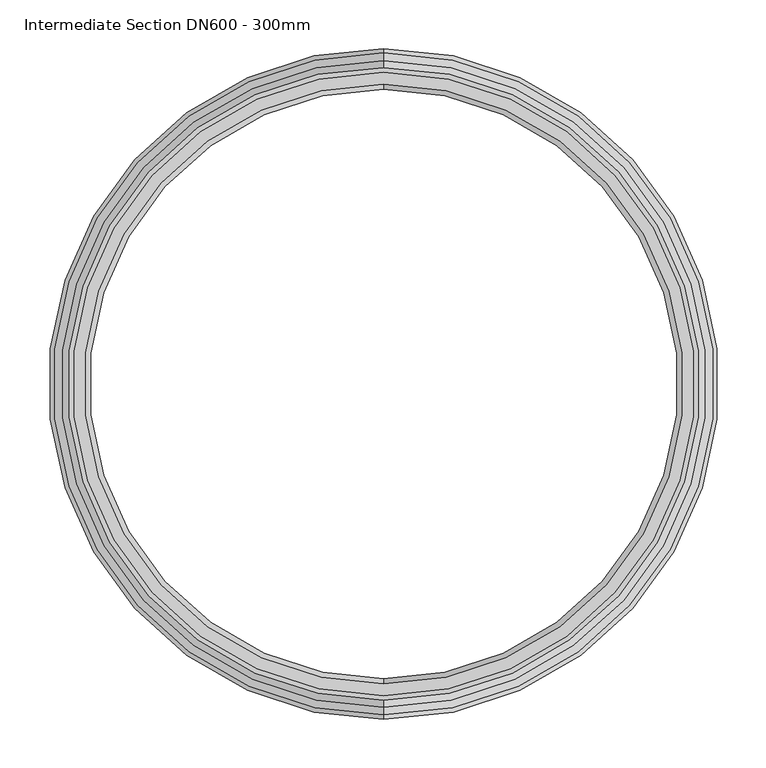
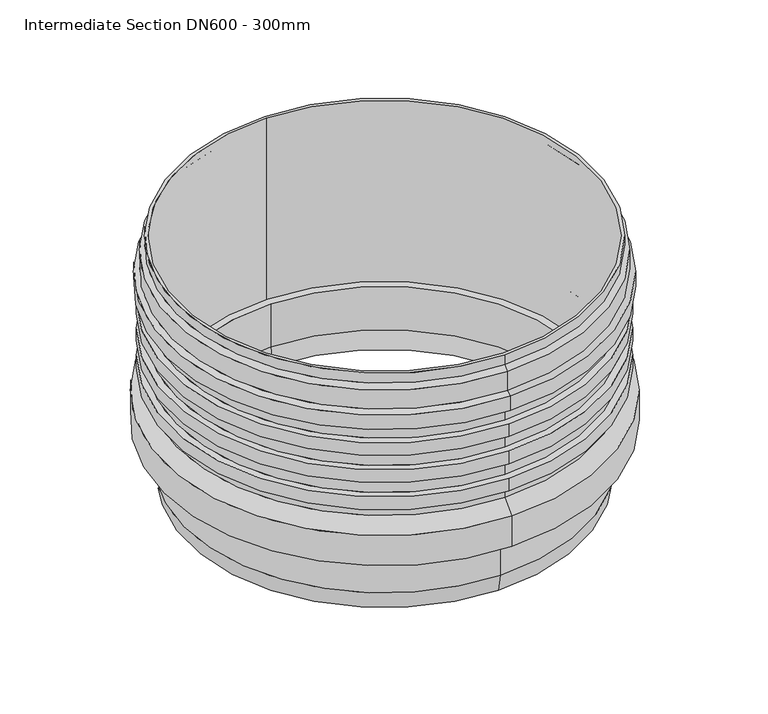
"""IFC4 building model written with IfcOpenShell, lengths in millimetres: proxy geometry, GRAF Intermediate Section DN600 - 300mm : Intermediate Section DN600 - 300mm."""

from ifc_helpers import new_model, si_unit, frame, origin, place, context, project, spatial, polyline, circle_curve, source, transform, mapped, element, save
from ifc_brep_helpers import plane_surface, cylinder_surface, revolved_surface, advanced_brep


def intermediate_section_dn600_300mm_32245d74(model_context):
    return source(origin(), model_context, "Body", "AdvancedBrep", [
        advanced_brep(
        [(-285.0, 325.5, 289.0), (-285.0, -325.5, 289.0), (-285.0, -325.5, 305.0), (-285.0, 325.5, 305.0), (-285.0, 332.5, 282.0), (-285.0, -332.5, 282.0), (-285.0, 332.5, 250.7785591), (-285.0, -332.5, 250.7785591), (-285.0, 340.5, 245.9426053), (-285.0, -340.5, 245.9426053), (-285.0, 340.5, 222.0), (-285.0, -340.5, 222.0), (-285.0, 325.5, 219.3550953), (-285.0, -325.5, 219.3550953), (-285.0, 325.5, 197.4490954), (-285.0, -325.5, 197.4490954), (-285.0, 336.5, 176.5509046), (-285.0, -336.5, 176.5509046), (-285.0, -336.5, 197.4490954), (-285.0, 336.5, 197.4490954), (-285.0, 325.5, 152.4490954), (-285.0, -325.5, 152.4490954), (-285.0, -325.5, 176.5509046), (-285.0, 325.5, 176.5509046), (-285.0, 336.5, 131.5509046), (-285.0, -336.5, 131.5509046), (-285.0, -336.5, 152.4490954), (-285.0, 336.5, 152.4490954), (-285.0, 325.5, 107.4490954), (-285.0, -325.5, 107.4490954), (-285.0, -325.5, 131.5509046), (-285.0, 325.5, 131.5509046), (-285.0, 336.5, 86.5509046), (-285.0, -336.5, 86.5509046), (-285.0, -336.5, 107.4490954), (-285.0, 336.5, 107.4490954), (-285.0, 325.5, 69.5), (-285.0, -325.5, 69.5), (-285.0, -325.5, 86.5509046), (-285.0, 325.5, 86.5509046), (-285.0, 345.0, 50.0), (-285.0, -345.0, 50.0), (-285.0, 345.0, 0.0), (-285.0, -345.0, 0.0), (-285.0, 313.5, -67.0993611), (-285.0, -313.5, -67.0993611), (-285.0, -313.5, 0.0), (-285.0, 313.5, 0.0), (-285.0, 308.2793352, -95.0), (-285.0, -308.2793352, -95.0), (-285.0, 308.5, -66.6355948), (-285.0, -308.5, -66.6355948), (-285.0, -303.1925569, -95.0), (-285.0, 303.1925569, -95.0), (-285.0, 308.5, 5.0), (-285.0, -308.5, 5.0), (-285.0, 320.5, 305.0), (-285.0, -320.5, 305.0), (-285.0, -320.5, 5.0), (-285.0, 320.5, 5.0)],
        [
            (0, 1, circle_curve(frame((-285.0, 0.0, 289.0), z_axis=(0.0, 0.0, 1.0), x_axis=(0.0, -1.0, 0.0)), 325.5)),
            (1, 2),
            (2, 3, circle_curve(frame((-285.0, 0.0, 305.0), z_axis=(0.0, 0.0, -1.0), x_axis=(0.0, -1.0, 0.0)), 325.5)),
            (3, 0),
            (4, 5, circle_curve(frame((-285.0, 0.0, 282.0), z_axis=(0.0, 0.0, 1.0), x_axis=(0.0, -1.0, 0.0)), 332.5)),
            (5, 1),
            (0, 4),
            (6, 7, circle_curve(frame((-285.0, 0.0, 250.7785591), z_axis=(0.0, 0.0, 1.0), x_axis=(0.0, -1.0, 0.0)), 332.5)),
            (7, 5),
            (4, 6),
            (8, 9, circle_curve(frame((-285.0, 0.0, 245.9426053), z_axis=(0.0, 0.0, 1.0), x_axis=(0.0, -1.0, 0.0)), 340.5)),
            (9, 7),
            (6, 8),
            (10, 11, circle_curve(frame((-285.0, 0.0, 222.0), z_axis=(0.0, 0.0, 1.0), x_axis=(0.0, -1.0, 0.0)), 340.5)),
            (11, 9),
            (8, 10),
            (12, 13, circle_curve(frame((-285.0, 0.0, 219.3550953), z_axis=(0.0, 0.0, 1.0), x_axis=(0.0, -1.0, 0.0)), 325.5)),
            (13, 11),
            (10, 12),
            (14, 15, circle_curve(frame((-285.0, 0.0, 197.4490954), z_axis=(0.0, 0.0, 1.0), x_axis=(0.0, -1.0, 0.0)), 325.5)),
            (15, 13),
            (12, 14),
            (16, 17, circle_curve(frame((-285.0, 0.0, 176.5509046), z_axis=(0.0, 0.0, 1.0), x_axis=(0.0, -1.0, 0.0)), 336.5)),
            (17, 18),
            (18, 19, circle_curve(frame((-285.0, 0.0, 197.4490954), z_axis=(0.0, 0.0, -1.0), x_axis=(0.0, -1.0, 0.0)), 336.5)),
            (19, 16),
            (20, 21, circle_curve(frame((-285.0, 0.0, 152.4490954), z_axis=(0.0, 0.0, 1.0), x_axis=(0.0, -1.0, 0.0)), 325.5)),
            (21, 22),
            (22, 23, circle_curve(frame((-285.0, 0.0, 176.5509046), z_axis=(0.0, 0.0, -1.0), x_axis=(0.0, -1.0, 0.0)), 325.5)),
            (23, 20),
            (24, 25, circle_curve(frame((-285.0, 0.0, 131.5509046), z_axis=(0.0, 0.0, 1.0), x_axis=(0.0, -1.0, 0.0)), 336.5)),
            (25, 26),
            (26, 27, circle_curve(frame((-285.0, 0.0, 152.4490954), z_axis=(0.0, 0.0, -1.0), x_axis=(0.0, -1.0, 0.0)), 336.5)),
            (27, 24),
            (28, 29, circle_curve(frame((-285.0, 0.0, 107.4490954), z_axis=(0.0, 0.0, 1.0), x_axis=(0.0, -1.0, 0.0)), 325.5)),
            (29, 30),
            (30, 31, circle_curve(frame((-285.0, 0.0, 131.5509046), z_axis=(0.0, 0.0, -1.0), x_axis=(0.0, -1.0, 0.0)), 325.5)),
            (31, 28),
            (32, 33, circle_curve(frame((-285.0, 0.0, 86.5509046), z_axis=(0.0, 0.0, 1.0), x_axis=(0.0, -1.0, 0.0)), 336.5)),
            (33, 34),
            (34, 35, circle_curve(frame((-285.0, 0.0, 107.4490954), z_axis=(0.0, 0.0, -1.0), x_axis=(0.0, -1.0, 0.0)), 336.5)),
            (35, 32),
            (36, 37, circle_curve(frame((-285.0, 0.0, 69.5), z_axis=(0.0, 0.0, 1.0), x_axis=(0.0, -1.0, 0.0)), 325.5)),
            (37, 38),
            (38, 39, circle_curve(frame((-285.0, 0.0, 86.5509046), z_axis=(0.0, 0.0, -1.0), x_axis=(0.0, -1.0, 0.0)), 325.5)),
            (39, 36),
            (40, 41, circle_curve(frame((-285.0, 0.0, 50.0), z_axis=(0.0, 0.0, 1.0), x_axis=(0.0, -1.0, 0.0)), 345.0)),
            (41, 37),
            (36, 40),
            (42, 43, circle_curve(frame((-285.0, 0.0, 0.0), z_axis=(0.0, 0.0, 1.0), x_axis=(0.0, -1.0, 0.0)), 345.0)),
            (43, 41),
            (40, 42),
            (44, 45, circle_curve(frame((-285.0, 0.0, -67.0993611), z_axis=(0.0, 0.0, 1.0), x_axis=(0.0, -1.0, 0.0)), 313.5)),
            (45, 46),
            (46, 47, circle_curve(frame((-285.0, 0.0, 0.0), z_axis=(0.0, 0.0, -1.0), x_axis=(0.0, -1.0, 0.0)), 313.5)),
            (47, 44),
            (48, 49, circle_curve(frame((-285.0, 0.0, -95.0), z_axis=(0.0, 0.0, 1.0), x_axis=(0.0, -1.0, 0.0)), 308.2793352)),
            (49, 45),
            (44, 48),
            (50, 51, circle_curve(frame((-285.0, 0.0, -66.6355948), z_axis=(0.0, 0.0, 1.0), x_axis=(0.0, -1.0, 0.0)), 308.5)),
            (51, 52),
            (52, 53, circle_curve(frame((-285.0, 0.0, -95.0), z_axis=(0.0, 0.0, -1.0), x_axis=(0.0, -1.0, 0.0)), 303.1925569)),
            (53, 50),
            (54, 55, circle_curve(frame((-285.0, 0.0, 5.0), z_axis=(0.0, 0.0, 1.0), x_axis=(0.0, -1.0, 0.0)), 308.5)),
            (55, 51),
            (50, 54),
            (56, 57, circle_curve(frame((-285.0, 0.0, 305.0), z_axis=(0.0, 0.0, 1.0), x_axis=(0.0, -1.0, 0.0)), 320.5)),
            (57, 58),
            (58, 59, circle_curve(frame((-285.0, 0.0, 5.0), z_axis=(0.0, 0.0, -1.0), x_axis=(0.0, -1.0, 0.0)), 320.5)),
            (59, 56),
            (1, 0, circle_curve(frame((-285.0, 0.0, 289.0), z_axis=(0.0, 0.0, 1.0), x_axis=(0.0, 1.0, 0.0)), 325.5)),
            (3, 2, circle_curve(frame((-285.0, 0.0, 305.0), z_axis=(0.0, 0.0, -1.0), x_axis=(0.0, 1.0, 0.0)), 325.5)),
            (5, 4, circle_curve(frame((-285.0, 0.0, 282.0), z_axis=(0.0, 0.0, 1.0), x_axis=(0.0, 1.0, 0.0)), 332.5)),
            (7, 6, circle_curve(frame((-285.0, 0.0, 250.7785591), z_axis=(0.0, 0.0, 1.0), x_axis=(0.0, 1.0, 0.0)), 332.5)),
            (9, 8, circle_curve(frame((-285.0, 0.0, 245.9426053), z_axis=(0.0, 0.0, 1.0), x_axis=(0.0, 1.0, 0.0)), 340.5)),
            (11, 10, circle_curve(frame((-285.0, 0.0, 222.0), z_axis=(0.0, 0.0, 1.0), x_axis=(0.0, 1.0, 0.0)), 340.5)),
            (13, 12, circle_curve(frame((-285.0, 0.0, 219.3550953), z_axis=(0.0, 0.0, 1.0), x_axis=(0.0, 1.0, 0.0)), 325.5)),
            (15, 14, circle_curve(frame((-285.0, 0.0, 197.4490954), z_axis=(0.0, 0.0, 1.0), x_axis=(0.0, 1.0, 0.0)), 325.5)),
            (18, 19, circle_curve(frame((-285.0, 0.0, 197.4490954), z_axis=(0.0, 0.0, 1.0), x_axis=(0.0, 1.0, 0.0)), 336.5)),
            (17, 16, circle_curve(frame((-285.0, 0.0, 176.5509046), z_axis=(0.0, 0.0, 1.0), x_axis=(0.0, 1.0, 0.0)), 336.5)),
            (22, 23, circle_curve(frame((-285.0, 0.0, 176.5509046), z_axis=(0.0, 0.0, 1.0), x_axis=(0.0, 1.0, 0.0)), 325.5)),
            (21, 20, circle_curve(frame((-285.0, 0.0, 152.4490954), z_axis=(0.0, 0.0, 1.0), x_axis=(0.0, 1.0, 0.0)), 325.5)),
            (26, 27, circle_curve(frame((-285.0, 0.0, 152.4490954), z_axis=(0.0, 0.0, 1.0), x_axis=(0.0, 1.0, 0.0)), 336.5)),
            (25, 24, circle_curve(frame((-285.0, 0.0, 131.5509046), z_axis=(0.0, 0.0, 1.0), x_axis=(0.0, 1.0, 0.0)), 336.5)),
            (30, 31, circle_curve(frame((-285.0, 0.0, 131.5509046), z_axis=(0.0, 0.0, 1.0), x_axis=(0.0, 1.0, 0.0)), 325.5)),
            (29, 28, circle_curve(frame((-285.0, 0.0, 107.4490954), z_axis=(0.0, 0.0, 1.0), x_axis=(0.0, 1.0, 0.0)), 325.5)),
            (34, 35, circle_curve(frame((-285.0, 0.0, 107.4490954), z_axis=(0.0, 0.0, 1.0), x_axis=(0.0, 1.0, 0.0)), 336.5)),
            (33, 32, circle_curve(frame((-285.0, 0.0, 86.5509046), z_axis=(0.0, 0.0, 1.0), x_axis=(0.0, 1.0, 0.0)), 336.5)),
            (38, 39, circle_curve(frame((-285.0, 0.0, 86.5509046), z_axis=(0.0, 0.0, 1.0), x_axis=(0.0, 1.0, 0.0)), 325.5)),
            (37, 36, circle_curve(frame((-285.0, 0.0, 69.5), z_axis=(0.0, 0.0, 1.0), x_axis=(0.0, 1.0, 0.0)), 325.5)),
            (41, 40, circle_curve(frame((-285.0, 0.0, 50.0), z_axis=(0.0, 0.0, 1.0), x_axis=(0.0, 1.0, 0.0)), 345.0)),
            (43, 42, circle_curve(frame((-285.0, 0.0, 0.0), z_axis=(0.0, 0.0, 1.0), x_axis=(0.0, 1.0, 0.0)), 345.0)),
            (46, 47, circle_curve(frame((-285.0, 0.0, 0.0), z_axis=(0.0, 0.0, 1.0), x_axis=(0.0, 1.0, 0.0)), 313.5)),
            (45, 44, circle_curve(frame((-285.0, 0.0, -67.0993611), z_axis=(0.0, 0.0, 1.0), x_axis=(0.0, 1.0, 0.0)), 313.5)),
            (49, 48, circle_curve(frame((-285.0, 0.0, -95.0), z_axis=(0.0, 0.0, 1.0), x_axis=(0.0, 1.0, 0.0)), 308.2793352)),
            (52, 53, circle_curve(frame((-285.0, 0.0, -95.0), z_axis=(0.0, 0.0, 1.0), x_axis=(0.0, 1.0, 0.0)), 303.1925569)),
            (51, 50, circle_curve(frame((-285.0, 0.0, -66.6355948), z_axis=(0.0, 0.0, 1.0), x_axis=(0.0, 1.0, 0.0)), 308.5)),
            (55, 54, circle_curve(frame((-285.0, 0.0, 5.0), z_axis=(0.0, 0.0, 1.0), x_axis=(0.0, 1.0, 0.0)), 308.5)),
            (58, 59, circle_curve(frame((-285.0, 0.0, 5.0), z_axis=(0.0, 0.0, 1.0), x_axis=(0.0, 1.0, 0.0)), 320.5)),
            (57, 56, circle_curve(frame((-285.0, 0.0, 305.0), z_axis=(0.0, 0.0, 1.0), x_axis=(0.0, 1.0, 0.0)), 320.5)),
        ],
        [
            cylinder_surface(frame((-285.0, 0.0, -95.0), z_axis=(0.0, 0.0, -1.0), x_axis=(0.0, -1.0, 0.0)), 325.5),
            revolved_surface(polyline([(-285.0, -325.5, 289.0), (-285.0, -332.5, 282.0)]), (-285.0, 0.0, -95.0), (0.0, 0.0, -1.0)),
            cylinder_surface(frame((-285.0, 0.0, -95.0), z_axis=(0.0, 0.0, -1.0), x_axis=(0.0, -1.0, 0.0)), 332.5),
            revolved_surface(polyline([(-285.0, -332.5, 250.7785591), (-285.0, -340.5, 245.9426053)]), (-285.0, 0.0, -95.0), (0.0, 0.0, -1.0)),
            cylinder_surface(frame((-285.0, 0.0, -95.0), z_axis=(0.0, 0.0, -1.0), x_axis=(0.0, -1.0, 0.0)), 340.5),
            revolved_surface(polyline([(-285.0, -340.5, 222.0), (-285.0, -325.5, 219.3550953)]), (-285.0, 0.0, -95.0), (0.0, 0.0, -1.0)),
            cylinder_surface(frame((-285.0, 0.0, -95.0), z_axis=(0.0, 0.0, -1.0), x_axis=(0.0, -1.0, 0.0)), 336.5),
            revolved_surface(polyline([(-285.0, -325.5, 69.5), (-285.0, -345.0, 50.0)]), (-285.0, 0.0, -95.0), (0.0, 0.0, -1.0)),
            cylinder_surface(frame((-285.0, 0.0, -95.0), z_axis=(0.0, 0.0, -1.0), x_axis=(0.0, -1.0, 0.0)), 345.0),
            cylinder_surface(frame((-285.0, 0.0, -95.0), z_axis=(0.0, 0.0, -1.0), x_axis=(0.0, -1.0, 0.0)), 313.5),
            revolved_surface(polyline([(-285.0, -313.5, -67.0993611), (-285.0, -308.2793352, -95.0)]), (-285.0, 0.0, -95.0), (0.0, 0.0, -1.0)),
            revolved_surface(polyline([(-285.0, -303.1925569, -95.0), (-285.0, -308.5, -66.6355948)]), (-285.0, 0.0, -95.0), (0.0, 0.0, -1.0)),
            revolved_surface(polyline([(-285.0, -308.5, -66.6355948), (-285.0, -308.5, 5.0)]), (-285.0, 0.0, -95.0), (0.0, 0.0, -1.0)),
            revolved_surface(polyline([(-285.0, -320.5, 5.0), (-285.0, -320.5, 305.0)]), (-285.0, 0.0, -95.0), (0.0, 0.0, -1.0)),
            cylinder_surface(frame((-285.0, 0.0, -95.0), z_axis=(0.0, 0.0, -1.0), x_axis=(0.0, 1.0, 0.0)), 325.5),
            revolved_surface(polyline([(-285.0, 325.5, 289.0), (-285.0, 332.5, 282.0)]), (-285.0, 0.0, -95.0), (0.0, 0.0, -1.0)),
            cylinder_surface(frame((-285.0, 0.0, -95.0), z_axis=(0.0, 0.0, -1.0), x_axis=(0.0, 1.0, 0.0)), 332.5),
            revolved_surface(polyline([(-285.0, 332.5, 250.7785591), (-285.0, 340.5, 245.9426053)]), (-285.0, 0.0, -95.0), (0.0, 0.0, -1.0)),
            cylinder_surface(frame((-285.0, 0.0, -95.0), z_axis=(0.0, 0.0, -1.0), x_axis=(0.0, 1.0, 0.0)), 340.5),
            revolved_surface(polyline([(-285.0, 340.5, 222.0), (-285.0, 325.5, 219.3550953)]), (-285.0, 0.0, -95.0), (0.0, 0.0, -1.0)),
            plane_surface(frame((-285.0, 0.0, 197.4490954), z_axis=(0.0, 0.0, 1.0), x_axis=(0.0, 1.0, 0.0))),
            cylinder_surface(frame((-285.0, 0.0, -95.0), z_axis=(0.0, 0.0, -1.0), x_axis=(0.0, 1.0, 0.0)), 336.5),
            plane_surface(frame((-285.0, 0.0, 176.5509046), z_axis=(0.0, 0.0, -1.0), x_axis=(0.0, 1.0, 0.0))),
            plane_surface(frame((-285.0, 0.0, 152.4490954), z_axis=(0.0, 0.0, 1.0), x_axis=(0.0, 1.0, 0.0))),
            plane_surface(frame((-285.0, 0.0, 131.5509046), z_axis=(0.0, 0.0, -1.0), x_axis=(0.0, 1.0, 0.0))),
            plane_surface(frame((-285.0, 0.0, 107.4490954), z_axis=(0.0, 0.0, 1.0), x_axis=(0.0, 1.0, 0.0))),
            plane_surface(frame((-285.0, 0.0, 86.5509046), z_axis=(0.0, 0.0, -1.0), x_axis=(0.0, 1.0, 0.0))),
            revolved_surface(polyline([(-285.0, 325.5, 69.5), (-285.0, 345.0, 50.0)]), (-285.0, 0.0, -95.0), (0.0, 0.0, -1.0)),
            cylinder_surface(frame((-285.0, 0.0, -95.0), z_axis=(0.0, 0.0, -1.0), x_axis=(0.0, 1.0, 0.0)), 345.0),
            plane_surface(frame((-285.0, 0.0, 0.0), z_axis=(0.0, 0.0, -1.0), x_axis=(0.0, 1.0, 0.0))),
            cylinder_surface(frame((-285.0, 0.0, -95.0), z_axis=(0.0, 0.0, -1.0), x_axis=(0.0, 1.0, 0.0)), 313.5),
            revolved_surface(polyline([(-285.0, 313.5, -67.0993611), (-285.0, 308.2793352, -95.0)]), (-285.0, 0.0, -95.0), (0.0, 0.0, -1.0)),
            plane_surface(frame((-285.0, 0.0, -95.0), z_axis=(0.0, 0.0, -1.0), x_axis=(0.0, 1.0, 0.0))),
            revolved_surface(polyline([(-285.0, 303.1925569, -95.0), (-285.0, 308.5, -66.6355948)]), (-285.0, 0.0, -95.0), (0.0, 0.0, -1.0)),
            revolved_surface(polyline([(-285.0, 308.5, -66.6355948), (-285.0, 308.5, 5.0)]), (-285.0, 0.0, -95.0), (0.0, 0.0, -1.0)),
            plane_surface(frame((-285.0, 0.0, 5.0), z_axis=(0.0, 0.0, 1.0), x_axis=(0.0, 1.0, 0.0))),
            revolved_surface(polyline([(-285.0, 320.5, 5.0), (-285.0, 320.5, 305.0)]), (-285.0, 0.0, -95.0), (0.0, 0.0, -1.0)),
            plane_surface(frame((-285.0, 0.0, 305.0), z_axis=(0.0, 0.0, 1.0), x_axis=(0.0, 1.0, 0.0))),
        ],
        [
            (0, [[1, 2, 3, 4]]),
            (1, [[5, 6, -1, 7]]),
            (2, [[8, 9, -5, 10]]),
            (3, [[11, 12, -8, 13]]),
            (4, [[14, 15, -11, 16]]),
            (5, [[17, 18, -14, 19]]),
            (0, [[20, 21, -17, 22]]),
            (6, [[23, 24, 25, 26]]),
            (0, [[27, 28, 29, 30]]),
            (6, [[31, 32, 33, 34]]),
            (0, [[35, 36, 37, 38]]),
            (6, [[39, 40, 41, 42]]),
            (0, [[43, 44, 45, 46]]),
            (7, [[47, 48, -43, 49]]),
            (8, [[50, 51, -47, 52]]),
            (9, [[53, 54, 55, 56]]),
            (10, [[57, 58, -53, 59]]),
            (11, [[60, 61, 62, 63]]),
            (12, [[64, 65, -60, 66]]),
            (13, [[67, 68, 69, 70]]),
            (14, [[71, -4, 72, -2]]),
            (15, [[73, -7, -71, -6]]),
            (16, [[74, -10, -73, -9]]),
            (17, [[75, -13, -74, -12]]),
            (18, [[76, -16, -75, -15]]),
            (19, [[77, -19, -76, -18]]),
            (14, [[78, -22, -77, -21]]),
            (20, [[79, -25], [-78, -20]]),
            (21, [[80, -26, -79, -24]]),
            (22, [[-80, -23], [81, -29]]),
            (14, [[82, -30, -81, -28]]),
            (23, [[83, -33], [-82, -27]]),
            (21, [[84, -34, -83, -32]]),
            (24, [[-84, -31], [85, -37]]),
            (14, [[86, -38, -85, -36]]),
            (25, [[87, -41], [-86, -35]]),
            (21, [[88, -42, -87, -40]]),
            (26, [[-88, -39], [89, -45]]),
            (14, [[90, -46, -89, -44]]),
            (27, [[91, -49, -90, -48]]),
            (28, [[92, -52, -91, -51]]),
            (29, [[-92, -50], [93, -55]]),
            (30, [[94, -56, -93, -54]]),
            (31, [[95, -59, -94, -58]]),
            (32, [[-95, -57], [96, -62]]),
            (33, [[97, -63, -96, -61]]),
            (34, [[98, -66, -97, -65]]),
            (35, [[99, -69], [-98, -64]]),
            (36, [[100, -70, -99, -68]]),
            (37, [[-72, -3], [-100, -67]]),
        ],
    ),
    ])


if __name__ == "__main__":
    model = new_model("IFC4")
    model_context = context("Model", 3, world=origin())
    ifc_project = project(units=[si_unit("LENGTHUNIT", "METRE", prefix="MILLI")], contexts=[model_context])
    site = spatial("IfcSite", under=ifc_project)
    building = spatial("IfcBuilding", under=site)
    placement = place(None, origin())
    intermediate_section_dn600_300mm_shape = intermediate_section_dn600_300mm_32245d74(model_context)
    element("IfcBuildingElementProxy", 1, Name="GRAF Intermediate Section DN600 - 300mm : Intermediate Section DN600 - 300mm", ObjectType="GRAF Intermediate Section DN600 - 300mm : Intermediate Section DN600 - 300mm", at=placement, inside=building, context=model_context, shape_type="MappedRepresentation", body=[
        mapped(intermediate_section_dn600_300mm_shape, transform((0.0, 0.0, 0.0), x_axis=(1.0, 0.0, 0.0), y_axis=(0.0, 1.0, 0.0), z_axis=(0.0, 0.0, 1.0))),
    ])
    save(model, "model.ifc")
